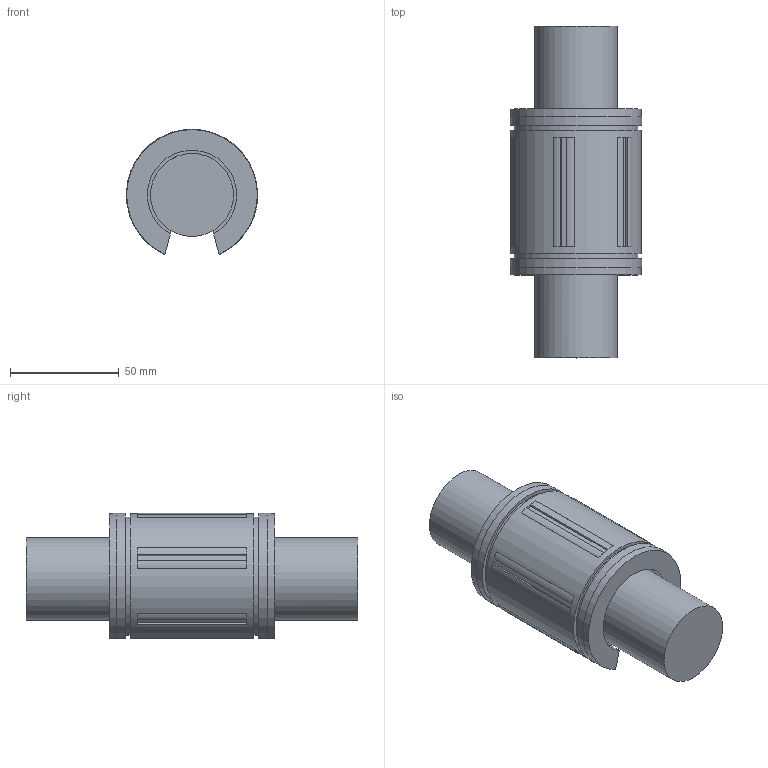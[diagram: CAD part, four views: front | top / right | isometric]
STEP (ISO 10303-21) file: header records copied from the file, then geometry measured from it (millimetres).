
FILE_DESCRIPTION((''),'2;1');
FILE_NAME('D:\STEP\SUPER\LMBS OP\LMBS24_OP.stp','2013-02-14T08:07:21',('user2'),(''),'Autodesk Inventor 2012','Autodesk Inventor 2012','');
FILE_SCHEMA(('AUTOMOTIVE_DESIGN { 1 0 10303 214 1 1 1 1 }'));
Length unit declared in the file: millimetre
Products named in the file (1): LMBS24_OP
Bounding box: 60.27 x 152.4 x 57.62 mm (x, y, z)
Volume: 280839.4 mm3; surface area: 33490.5 mm2
Topology: 1 solids, 1 shells, 87 faces, 219 edges, 139 vertices
Faces by surface type: plane 67, cylinder 18, cone 2
Full cylindrical faces by diameter (mm): 38.1 x1
Entity records: 2626 total; most frequent: DIRECTION 462, CARTESIAN_POINT 442, ORIENTED_EDGE 432, EDGE_CURVE 216, AXIS2_PLACEMENT_3D 158, VECTOR 146, LINE 146, VERTEX_POINT 138
